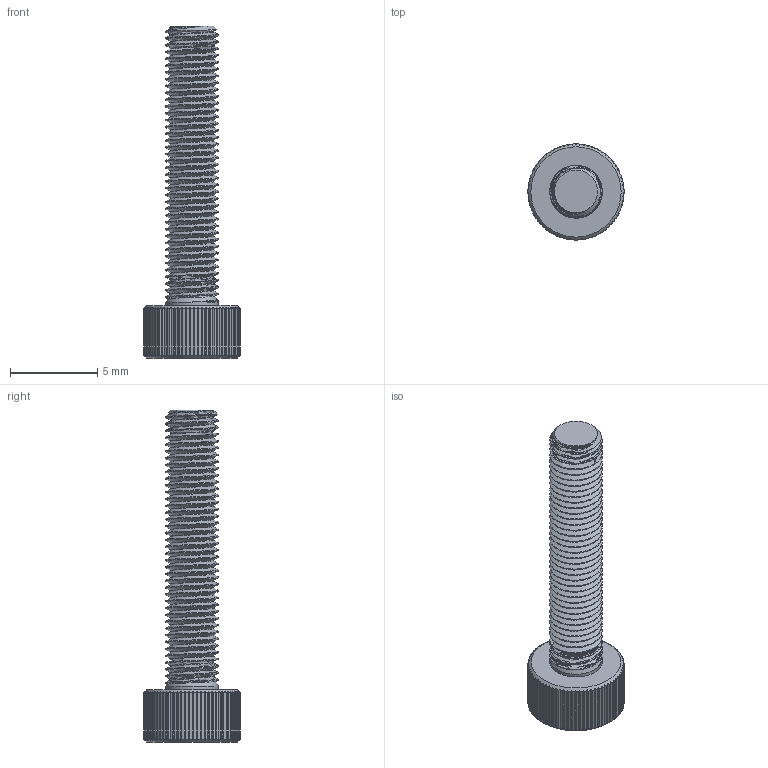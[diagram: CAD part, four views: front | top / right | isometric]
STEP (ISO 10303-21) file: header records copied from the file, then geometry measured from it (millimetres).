
FILE_DESCRIPTION(/* description */ ('STEP AP242 Edition 2','CAx-IF Rec.Pracs.---Representation and Presentation of Product Manufacturing Information (PMI)---4.0---2014-10-13','CAx-IF Rec.Pracs.---3D Tessellated Geometry---0.4---2014-09-14','2;1','CAx-IF Rec.Pracs.---User Defined Attributes---1.5---2016-08-15'),/* implementation_level */ '2;1');
FILE_NAME(/* name */ 'Main - M3 16mm',/* time_stamp */ '2026-09-13T15:49:57Z',/* author */ (''),/* organization */ (''),/* preprocessor_version */ 'ST-DEVELOPER v20',/* originating_system */ 'ONSHAPE BY PTC INC, 1.220',/* authorisation */ ' ');
FILE_SCHEMA (('AP242_MANAGED_MODEL_BASED_3D_ENGINEERING_MIM_LF { 1 0 10303 442 3 1 4 }'));
Length unit declared in the file: metre
Products named in the file (1): M3 16mm
Bounding box: 5.5 x 5.5 x 19 mm (x, y, z)
Volume: 155.6 mm3; surface area: 357.3 mm2
Topology: 1 solids, 1 shells, 288 faces, 840 edges, 556 vertices
Faces by surface type: plane 160, cylinder 115, cone 10, bspline 3
Full cylindrical faces by diameter (mm): 3 x39
Entity records: 13903 total; most frequent: CARTESIAN_POINT 6926, DIRECTION 1657, ORIENTED_EDGE 1432, EDGE_CURVE 716, AXIS2_PLACEMENT_3D 710, VERTEX_POINT 475, CIRCLE 463, EDGE_LOOP 255
